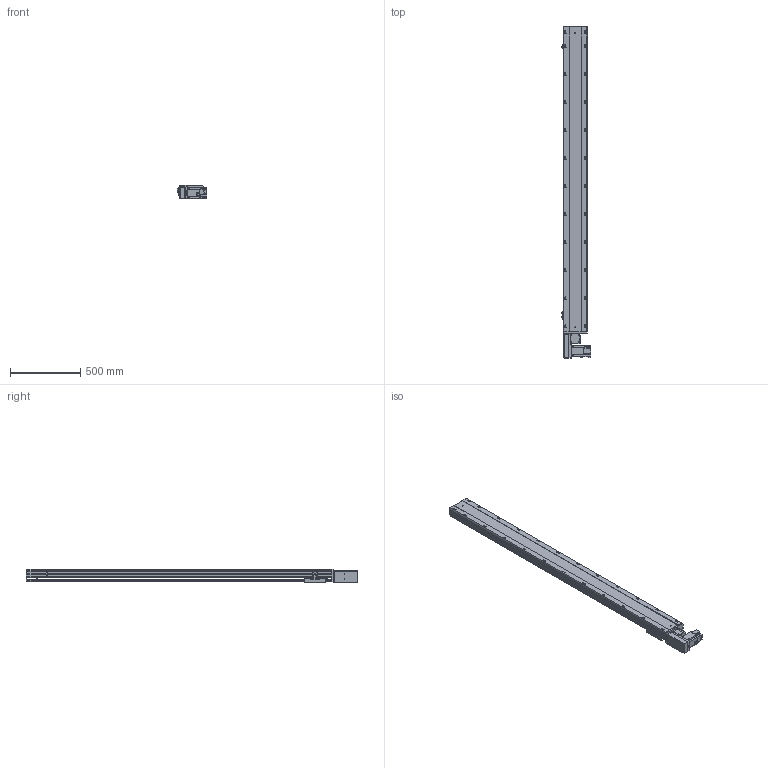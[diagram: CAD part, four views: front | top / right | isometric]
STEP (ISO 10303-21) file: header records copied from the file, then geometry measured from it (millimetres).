
FILE_DESCRIPTION (( 'STEP AP203' ), '1' );
FILE_NAME ('BTB17-L50-1900-R-T75-C4.STEP', '2022-07-26T03:16:32', ( 'CXY' ), ( 'BT' ), 'SwSTEP 2.0', 'SolidWorks 2016', '' );
FILE_SCHEMA (( 'CONFIG_CONTROL_DESIGN' ));
Length unit declared in the file: millimetre
Products named in the file (10): BTB17-L-HZ; BTB17-L-23; BTB17-L-01; BTB17-L-02; BTB17-L-菁釱_XD; BTB17-L-24; BTB17-L-06; BTB17-L-04; T75; BTB17-L50-1900-R-T75-C4
Assembly tree (12 placements, depth 2):
  BTB17-L50-1900-R-T75-C4
    BTB17-L-菁釱_XD
    BTB17-L-01
    BTB17-L-04  x3
    BTB17-L-06
    BTB17-L-23  x2
    BTB17-L-24
    BTB17-L-HZ
    BTB17-L-02
    T75
Bounding box: 209 x 2369.5 x 97 mm (x, y, z)
Volume: 19617029 mm3; surface area: 2539789.3 mm2
Topology: 22 solids, 22 shells, 1678 faces, 4397 edges, 2772 vertices
Faces by surface type: plane 878, cylinder 600, cone 164, bspline 20, torus 16
Entity records: 43205 total; most frequent: CARTESIAN_POINT 8036, DIRECTION 7271, ORIENTED_EDGE 6914, EDGE_CURVE 3457, AXIS2_PLACEMENT_3D 2531, VERTEX_POINT 2240, VECTOR 2209, LINE 2209
